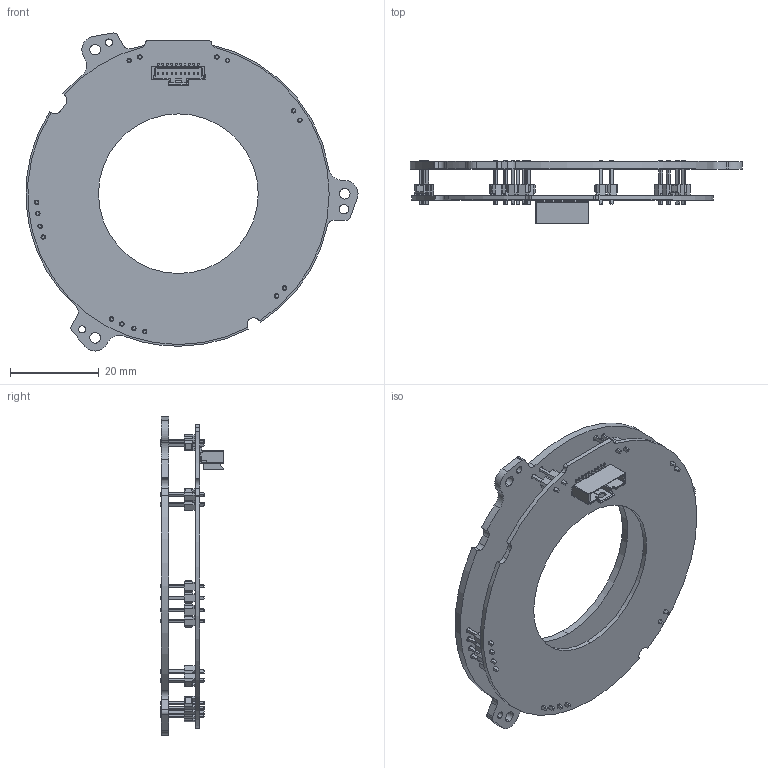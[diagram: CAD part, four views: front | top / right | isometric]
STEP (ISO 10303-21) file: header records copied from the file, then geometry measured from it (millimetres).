
FILE_DESCRIPTION (( 'STEP AP203' ), '1' );
FILE_NAME ('2422-114_Rev1-0-Stator-PA1.STEP', '2023-11-03T11:52:13', ( '' ), ( '' ), 'SwSTEP 2.0', 'SolidWorks 2022', '' );
FILE_SCHEMA (( 'CONFIG_CONTROL_DESIGN' ));
Length unit declared in the file: millimetre
Products named in the file (5): 2422-104_Rev1-0; 4002-0016; 2422-114_Rev1-0-Stator-PA1; 2422-103_Rev1-0; 4010-0016
Assembly tree (11 placements, depth 2):
  2422-114_Rev1-0-Stator-PA1
    2422-103_Rev1-0
    2422-104_Rev1-0
    4010-0016
    4002-0016  x8
Bounding box: 74.84 x 14.41 x 71.72 mm (x, y, z)
Volume: 7504.1 mm3; surface area: 13175.5 mm2
Topology: 27 solids, 27 shells, 1194 faces, 3089 edges, 1978 vertices
Faces by surface type: plane 1011, cylinder 176, cone 7
Entity records: 21580 total; most frequent: CARTESIAN_POINT 4123, ORIENTED_EDGE 3546, DIRECTION 3283, EDGE_CURVE 1773, VECTOR 1395, LINE 1395, VERTEX_POINT 1166, AXIS2_PLACEMENT_3D 944
